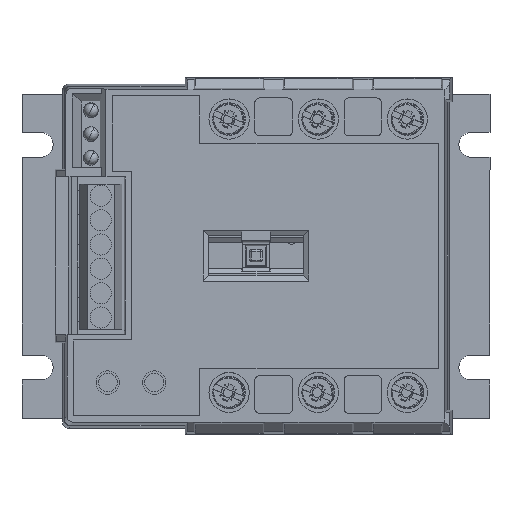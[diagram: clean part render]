
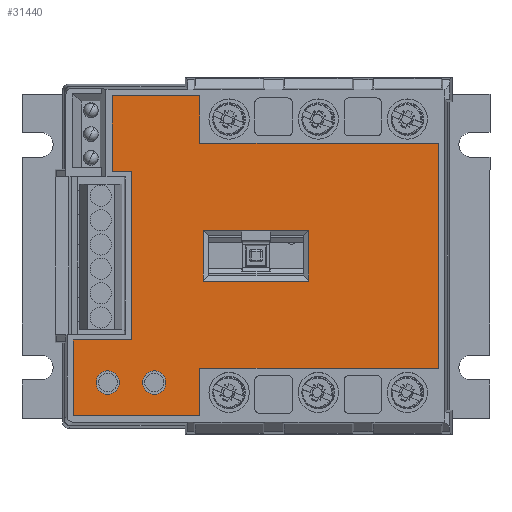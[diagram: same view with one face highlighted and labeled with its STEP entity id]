
A CAD part, top view. The second image highlights one B-rep face of the part: STEP entity #31440.
In plain terms, the highlighted planar face has unit normal (0, 0, 1).
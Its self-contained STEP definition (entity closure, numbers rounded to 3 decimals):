
#917=FACE_BOUND('',#4615,.T.);
#918=FACE_BOUND('',#4616,.T.);
#919=FACE_BOUND('',#4617,.T.);
#1353=PLANE('',#34047);
#2830=FACE_OUTER_BOUND('',#4614,.T.);
#4614=EDGE_LOOP('',(#24140,#24141,#24142,#24143,#24144,#24145,#24146,#24147,
#24148,#24149,#24150,#24151));
#4615=EDGE_LOOP('',(#24152,#24153));
#4616=EDGE_LOOP('',(#24154,#24155));
#4617=EDGE_LOOP('',(#24156,#24157,#24158,#24159));
#6729=LINE('',#49746,#9559);
#6793=LINE('',#49930,#9623);
#6795=LINE('',#49934,#9625);
#6796=LINE('',#49936,#9626);
#6798=LINE('',#49941,#9628);
#6801=LINE('',#49946,#9631);
#6802=LINE('',#49949,#9632);
#6803=LINE('',#49951,#9633);
#6804=LINE('',#49953,#9634);
#6805=LINE('',#49955,#9635);
#6806=LINE('',#49956,#9636);
#6807=LINE('',#49957,#9637);
#6808=LINE('',#49960,#9638);
#6809=LINE('',#49962,#9639);
#6810=LINE('',#49964,#9640);
#6811=LINE('',#49965,#9641);
#9559=VECTOR('',#39655,1.);
#9623=VECTOR('',#39781,1.);
#9625=VECTOR('',#39785,1.);
#9626=VECTOR('',#39788,1.);
#9628=VECTOR('',#39792,1.);
#9631=VECTOR('',#39797,1.);
#9632=VECTOR('',#39800,1.);
#9633=VECTOR('',#39801,1.);
#9634=VECTOR('',#39802,1.);
#9635=VECTOR('',#39803,1.);
#9636=VECTOR('',#39804,1.);
#9637=VECTOR('',#39805,1.);
#9638=VECTOR('',#39806,1.);
#9639=VECTOR('',#39807,1.);
#9640=VECTOR('',#39808,1.);
#9641=VECTOR('',#39809,1.);
#12164=CIRCLE('',#33986,2.5);
#12165=CIRCLE('',#33987,2.5);
#12167=CIRCLE('',#33990,2.5);
#12168=CIRCLE('',#33991,2.5);
#13999=VERTEX_POINT('',#49663);
#14000=VERTEX_POINT('',#49664);
#14002=VERTEX_POINT('',#49671);
#14003=VERTEX_POINT('',#49672);
#14026=VERTEX_POINT('',#49740);
#14028=VERTEX_POINT('',#49744);
#14116=VERTEX_POINT('',#49926);
#14117=VERTEX_POINT('',#49928);
#14118=VERTEX_POINT('',#49932);
#14119=VERTEX_POINT('',#49938);
#14120=VERTEX_POINT('',#49940);
#14121=VERTEX_POINT('',#49944);
#14122=VERTEX_POINT('',#49948);
#14123=VERTEX_POINT('',#49950);
#14124=VERTEX_POINT('',#49952);
#14125=VERTEX_POINT('',#49954);
#14126=VERTEX_POINT('',#49958);
#14127=VERTEX_POINT('',#49959);
#14128=VERTEX_POINT('',#49961);
#14129=VERTEX_POINT('',#49963);
#17570=EDGE_CURVE('',#13999,#14000,#12164,.T.);
#17571=EDGE_CURVE('',#14000,#13999,#12165,.T.);
#17574=EDGE_CURVE('',#14002,#14003,#12167,.T.);
#17575=EDGE_CURVE('',#14003,#14002,#12168,.T.);
#17606=EDGE_CURVE('',#14028,#14026,#6729,.T.);
#17699=EDGE_CURVE('',#14117,#14116,#6793,.T.);
#17701=EDGE_CURVE('',#14118,#14117,#6795,.T.);
#17702=EDGE_CURVE('',#14116,#14028,#6796,.T.);
#17704=EDGE_CURVE('',#14119,#14120,#6798,.T.);
#17707=EDGE_CURVE('',#14026,#14121,#6801,.T.);
#17708=EDGE_CURVE('',#14122,#14119,#6802,.F.);
#17709=EDGE_CURVE('',#14123,#14122,#6803,.F.);
#17710=EDGE_CURVE('',#14123,#14124,#6804,.T.);
#17711=EDGE_CURVE('',#14125,#14124,#6805,.T.);
#17712=EDGE_CURVE('',#14121,#14125,#6806,.T.);
#17713=EDGE_CURVE('',#14120,#14118,#6807,.T.);
#17714=EDGE_CURVE('',#14126,#14127,#6808,.T.);
#17715=EDGE_CURVE('',#14127,#14128,#6809,.T.);
#17716=EDGE_CURVE('',#14128,#14129,#6810,.T.);
#17717=EDGE_CURVE('',#14129,#14126,#6811,.T.);
#24140=ORIENTED_EDGE('',*,*,#17708,.F.);
#24141=ORIENTED_EDGE('',*,*,#17709,.F.);
#24142=ORIENTED_EDGE('',*,*,#17710,.T.);
#24143=ORIENTED_EDGE('',*,*,#17711,.F.);
#24144=ORIENTED_EDGE('',*,*,#17712,.F.);
#24145=ORIENTED_EDGE('',*,*,#17707,.F.);
#24146=ORIENTED_EDGE('',*,*,#17606,.F.);
#24147=ORIENTED_EDGE('',*,*,#17702,.F.);
#24148=ORIENTED_EDGE('',*,*,#17699,.F.);
#24149=ORIENTED_EDGE('',*,*,#17701,.F.);
#24150=ORIENTED_EDGE('',*,*,#17713,.F.);
#24151=ORIENTED_EDGE('',*,*,#17704,.F.);
#24152=ORIENTED_EDGE('',*,*,#17570,.T.);
#24153=ORIENTED_EDGE('',*,*,#17571,.T.);
#24154=ORIENTED_EDGE('',*,*,#17574,.T.);
#24155=ORIENTED_EDGE('',*,*,#17575,.T.);
#24156=ORIENTED_EDGE('',*,*,#17714,.T.);
#24157=ORIENTED_EDGE('',*,*,#17715,.T.);
#24158=ORIENTED_EDGE('',*,*,#17716,.T.);
#24159=ORIENTED_EDGE('',*,*,#17717,.T.);
#31440=ADVANCED_FACE('',(#2830,#917,#918,#919),#1353,.F.);
#33986=AXIS2_PLACEMENT_3D('',#49665,#39587,#39588);
#33987=AXIS2_PLACEMENT_3D('',#49666,#39589,#39590);
#33990=AXIS2_PLACEMENT_3D('',#49673,#39596,#39597);
#33991=AXIS2_PLACEMENT_3D('',#49674,#39598,#39599);
#34047=AXIS2_PLACEMENT_3D('',#49947,#39798,#39799);
#39587=DIRECTION('center_axis',(0.,0.,
-1.));
#39588=DIRECTION('ref_axis',(-1.,0.,0.));
#39589=DIRECTION('center_axis',(0.,0.,
-1.));
#39590=DIRECTION('ref_axis',(-1.,0.,0.));
#39596=DIRECTION('center_axis',(0.,0.,
-1.));
#39597=DIRECTION('ref_axis',(-1.,0.,0.));
#39598=DIRECTION('center_axis',(0.,0.,
-1.));
#39599=DIRECTION('ref_axis',(-1.,0.,0.));
#39655=DIRECTION('',(0.,1.,0.));
#39781=DIRECTION('',(0.,1.,0.));
#39785=DIRECTION('',(1.,0.,0.));
#39788=DIRECTION('',(-1.,0.,0.));
#39792=DIRECTION('',(-1.,0.,0.));
#39797=DIRECTION('',(1.,0.,0.));
#39798=DIRECTION('center_axis',(0.,0.,
-1.));
#39799=DIRECTION('ref_axis',(-1.,0.,0.));
#39800=DIRECTION('',(0.,1.,0.));
#39801=DIRECTION('',(1.,0.,0.));
#39802=DIRECTION('',(0.,1.,0.));
#39803=DIRECTION('',(1.,0.,0.));
#39804=DIRECTION('',(0.,-1.,0.));
#39805=DIRECTION('',(0.,1.,0.));
#39806=DIRECTION('',(0.,1.,0.));
#39807=DIRECTION('',(1.,0.,0.));
#39808=DIRECTION('',(0.,-1.,0.));
#39809=DIRECTION('',(-1.,0.,0.));
#49663=CARTESIAN_POINT('',(-24.25,-27.1,55.9));
#49664=CARTESIAN_POINT('',(-19.25,-27.1,55.9));
#49665=CARTESIAN_POINT('Origin',(-21.75,-27.1,55.9));
#49666=CARTESIAN_POINT('Origin',(-21.75,-27.1,55.9));
#49671=CARTESIAN_POINT('',(-34.16,-27.1,55.9));
#49672=CARTESIAN_POINT('',(-29.16,-27.1,55.9));
#49673=CARTESIAN_POINT('Origin',(-31.66,-27.1,55.9));
#49674=CARTESIAN_POINT('Origin',(-31.66,-27.1,55.9));
#49740=CARTESIAN_POINT('',(-30.7,34.2,55.9));
#49744=CARTESIAN_POINT('',(-30.7,18.,55.9));
#49746=CARTESIAN_POINT('',(-30.7,26.1,55.9));
#49926=CARTESIAN_POINT('',(-26.5,18.,55.9));
#49928=CARTESIAN_POINT('',(-26.5,-18.,55.9));
#49930=CARTESIAN_POINT('',(-26.5,0.,55.9));
#49932=CARTESIAN_POINT('',(-39.,-18.,55.9));
#49934=CARTESIAN_POINT('',(-26.5,-18.,55.9));
#49936=CARTESIAN_POINT('',(-29.7,18.,55.9));
#49938=CARTESIAN_POINT('',(-12.,-34.2,55.9));
#49940=CARTESIAN_POINT('',(-39.,-34.2,55.9));
#49941=CARTESIAN_POINT('',(-39.,-34.2,55.9));
#49944=CARTESIAN_POINT('',(-12.,34.2,55.9));
#49946=CARTESIAN_POINT('',(-11.,34.2,55.9));
#49947=CARTESIAN_POINT('Origin',(39.,-24.,55.9));
#49948=CARTESIAN_POINT('',(-12.,-24.,55.9));
#49949=CARTESIAN_POINT('',(-12.,-29.1,55.9));
#49950=CARTESIAN_POINT('',(39.,-24.,55.9));
#49951=CARTESIAN_POINT('',(-11.5,-24.,55.9));
#49952=CARTESIAN_POINT('',(39.,24.,55.9));
#49953=CARTESIAN_POINT('',(39.,-12.,55.9));
#49954=CARTESIAN_POINT('',(-12.,24.,55.9));
#49955=CARTESIAN_POINT('',(40.,24.,55.9));
#49956=CARTESIAN_POINT('',(-12.,29.1,55.9));
#49957=CARTESIAN_POINT('',(-39.,-18.,55.9));
#49958=CARTESIAN_POINT('',(-11.313,-5.412,55.9));
#49959=CARTESIAN_POINT('',(-11.313,5.413,55.9));
#49960=CARTESIAN_POINT('',(-11.313,-9.294,55.9));
#49961=CARTESIAN_POINT('',(11.312,5.413,55.9));
#49962=CARTESIAN_POINT('',(25.156,5.413,55.9));
#49963=CARTESIAN_POINT('',(11.312,-5.412,55.9));
#49964=CARTESIAN_POINT('',(11.312,-14.706,55.9));
#49965=CARTESIAN_POINT('',(13.844,-5.412,55.9));
